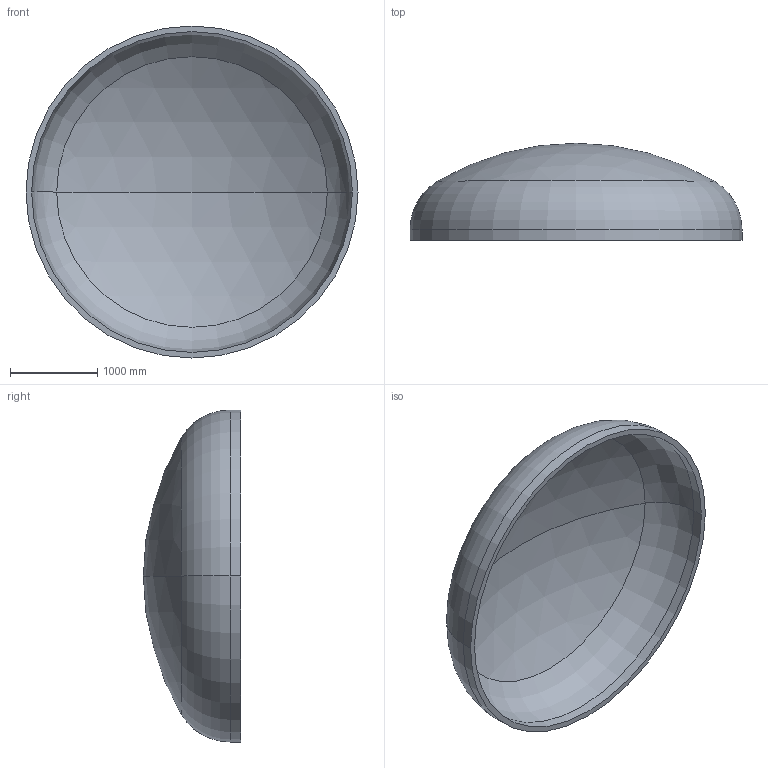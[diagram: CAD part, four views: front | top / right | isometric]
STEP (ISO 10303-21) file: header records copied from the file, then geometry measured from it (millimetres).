
FILE_DESCRIPTION (( 'STEP AP203' ), '1' );
FILE_NAME ('DIN 28013 Korbbogenform_-_Boden DIN 28013 - 3800 x 120 - I - s=64.step', '2016-07-01T21:34:45', ( '' ), ( '' ), 'SwSTEP 2.0', 'SolidWorks 2013', '' );
FILE_SCHEMA (( 'CONFIG_CONTROL_DESIGN' ));
Length unit declared in the file: millimetre
Products named in the file (1): DIN 28013 Korbbogenform_-_Boden DIN 28013 - 3800 x 120 - I - s=64
Bounding box: 3800 x 1111.65 x 3800 mm (x, y, z)
Volume: 1073253214.1 mm3; surface area: 34298897.1 mm2
Topology: 1 solids, 1 shells, 13 faces, 24 edges, 14 vertices
Faces by surface type: torus 4, cylinder 4, sphere 4, plane 1
Entity records: 407 total; most frequent: DIRECTION 72, CARTESIAN_POINT 52, ORIENTED_EDGE 48, AXIS2_PLACEMENT_3D 34, EDGE_CURVE 24, CIRCLE 20, EDGE_LOOP 14, VERTEX_POINT 14
